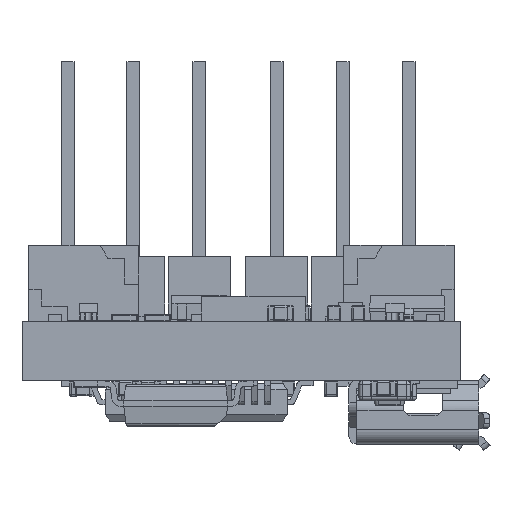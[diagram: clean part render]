
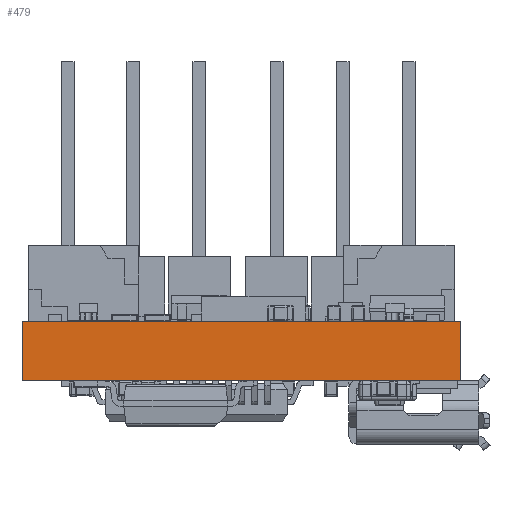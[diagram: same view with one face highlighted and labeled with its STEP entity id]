
A CAD part, left-side view. The second image highlights one B-rep face of the part: STEP entity #479.
In plain terms, the highlighted planar face has unit normal (-1, 0, 0).
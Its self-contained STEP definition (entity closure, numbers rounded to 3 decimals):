
#216 = EDGE_CURVE('',#217,#219,#221,.T.);
#217 = VERTEX_POINT('',#218);
#218 = CARTESIAN_POINT('',(0.,0.,0.));
#219 = VERTEX_POINT('',#220);
#220 = CARTESIAN_POINT('',(0.,0.,2.286));
#221 = SURFACE_CURVE('',#222,(#226,#238),.PCURVE_S1.);
#222 = LINE('',#223,#224);
#223 = CARTESIAN_POINT('',(0.,0.,0.));
#224 = VECTOR('',#225,1.);
#225 = DIRECTION('',(0.,0.,1.));
#226 = PCURVE('',#227,#232);
#227 = PLANE('',#228);
#228 = AXIS2_PLACEMENT_3D('',#229,#230,#231);
#229 = CARTESIAN_POINT('',(0.,0.,0.));
#230 = DIRECTION('',(0.,1.,0.));
#231 = DIRECTION('',(1.,0.,0.));
#232 = DEFINITIONAL_REPRESENTATION('',(#233),#237);
#233 = LINE('',#234,#235);
#234 = CARTESIAN_POINT('',(0.,0.));
#235 = VECTOR('',#236,1.);
#236 = DIRECTION('',(0.,-1.));
#237 = ( GEOMETRIC_REPRESENTATION_CONTEXT(2) 
PARAMETRIC_REPRESENTATION_CONTEXT() REPRESENTATION_CONTEXT('2D SPACE',''
  ) );
#238 = PCURVE('',#239,#244);
#239 = PLANE('',#240);
#240 = AXIS2_PLACEMENT_3D('',#241,#242,#243);
#241 = CARTESIAN_POINT('',(0.,16.891,0.));
#242 = DIRECTION('',(1.,0.,0.));
#243 = DIRECTION('',(0.,-1.,0.));
#244 = DEFINITIONAL_REPRESENTATION('',(#245),#249);
#245 = LINE('',#246,#247);
#246 = CARTESIAN_POINT('',(16.891,0.));
#247 = VECTOR('',#248,1.);
#248 = DIRECTION('',(0.,-1.));
#249 = ( GEOMETRIC_REPRESENTATION_CONTEXT(2) 
PARAMETRIC_REPRESENTATION_CONTEXT() REPRESENTATION_CONTEXT('2D SPACE',''
  ) );
#267 = PLANE('',#268);
#268 = AXIS2_PLACEMENT_3D('',#269,#270,#271);
#269 = CARTESIAN_POINT('',(0.,0.,2.286));
#270 = DIRECTION('',(0.,0.,-1.));
#271 = DIRECTION('',(-1.,0.,0.));
#321 = PLANE('',#322);
#322 = AXIS2_PLACEMENT_3D('',#323,#324,#325);
#323 = CARTESIAN_POINT('',(0.,0.,0.));
#324 = DIRECTION('',(0.,0.,-1.));
#325 = DIRECTION('',(-1.,0.,0.));
#376 = PLANE('',#377);
#377 = AXIS2_PLACEMENT_3D('',#378,#379,#380);
#378 = CARTESIAN_POINT('',(30.,16.891,0.));
#379 = DIRECTION('',(0.,-1.,0.));
#380 = DIRECTION('',(-1.,0.,0.));
#414 = VERTEX_POINT('',#415);
#415 = CARTESIAN_POINT('',(0.,16.891,2.286));
#436 = EDGE_CURVE('',#437,#414,#439,.T.);
#437 = VERTEX_POINT('',#438);
#438 = CARTESIAN_POINT('',(0.,16.891,0.));
#439 = SURFACE_CURVE('',#440,(#444,#451),.PCURVE_S1.);
#440 = LINE('',#441,#442);
#441 = CARTESIAN_POINT('',(0.,16.891,0.));
#442 = VECTOR('',#443,1.);
#443 = DIRECTION('',(0.,0.,1.));
#444 = PCURVE('',#376,#445);
#445 = DEFINITIONAL_REPRESENTATION('',(#446),#450);
#446 = LINE('',#447,#448);
#447 = CARTESIAN_POINT('',(30.,0.));
#448 = VECTOR('',#449,1.);
#449 = DIRECTION('',(0.,-1.));
#450 = ( GEOMETRIC_REPRESENTATION_CONTEXT(2) 
PARAMETRIC_REPRESENTATION_CONTEXT() REPRESENTATION_CONTEXT('2D SPACE',''
  ) );
#451 = PCURVE('',#239,#452);
#452 = DEFINITIONAL_REPRESENTATION('',(#453),#457);
#453 = LINE('',#454,#455);
#454 = CARTESIAN_POINT('',(0.,0.));
#455 = VECTOR('',#456,1.);
#456 = DIRECTION('',(0.,-1.));
#457 = ( GEOMETRIC_REPRESENTATION_CONTEXT(2) 
PARAMETRIC_REPRESENTATION_CONTEXT() REPRESENTATION_CONTEXT('2D SPACE',''
  ) );
#479 = ADVANCED_FACE('',(#480),#239,.F.);
#480 = FACE_BOUND('',#481,.F.);
#481 = EDGE_LOOP('',(#482,#483,#504,#505));
#482 = ORIENTED_EDGE('',*,*,#436,.T.);
#483 = ORIENTED_EDGE('',*,*,#484,.T.);
#484 = EDGE_CURVE('',#414,#219,#485,.T.);
#485 = SURFACE_CURVE('',#486,(#490,#497),.PCURVE_S1.);
#486 = LINE('',#487,#488);
#487 = CARTESIAN_POINT('',(0.,16.891,2.286));
#488 = VECTOR('',#489,1.);
#489 = DIRECTION('',(0.,-1.,0.));
#490 = PCURVE('',#239,#491);
#491 = DEFINITIONAL_REPRESENTATION('',(#492),#496);
#492 = LINE('',#493,#494);
#493 = CARTESIAN_POINT('',(0.,-2.286));
#494 = VECTOR('',#495,1.);
#495 = DIRECTION('',(1.,0.));
#496 = ( GEOMETRIC_REPRESENTATION_CONTEXT(2) 
PARAMETRIC_REPRESENTATION_CONTEXT() REPRESENTATION_CONTEXT('2D SPACE',''
  ) );
#497 = PCURVE('',#267,#498);
#498 = DEFINITIONAL_REPRESENTATION('',(#499),#503);
#499 = LINE('',#500,#501);
#500 = CARTESIAN_POINT('',(0.,16.891));
#501 = VECTOR('',#502,1.);
#502 = DIRECTION('',(0.,-1.));
#503 = ( GEOMETRIC_REPRESENTATION_CONTEXT(2) 
PARAMETRIC_REPRESENTATION_CONTEXT() REPRESENTATION_CONTEXT('2D SPACE',''
  ) );
#504 = ORIENTED_EDGE('',*,*,#216,.F.);
#505 = ORIENTED_EDGE('',*,*,#506,.F.);
#506 = EDGE_CURVE('',#437,#217,#507,.T.);
#507 = SURFACE_CURVE('',#508,(#512,#519),.PCURVE_S1.);
#508 = LINE('',#509,#510);
#509 = CARTESIAN_POINT('',(0.,16.891,0.));
#510 = VECTOR('',#511,1.);
#511 = DIRECTION('',(0.,-1.,0.));
#512 = PCURVE('',#239,#513);
#513 = DEFINITIONAL_REPRESENTATION('',(#514),#518);
#514 = LINE('',#515,#516);
#515 = CARTESIAN_POINT('',(0.,0.));
#516 = VECTOR('',#517,1.);
#517 = DIRECTION('',(1.,0.));
#518 = ( GEOMETRIC_REPRESENTATION_CONTEXT(2) 
PARAMETRIC_REPRESENTATION_CONTEXT() REPRESENTATION_CONTEXT('2D SPACE',''
  ) );
#519 = PCURVE('',#321,#520);
#520 = DEFINITIONAL_REPRESENTATION('',(#521),#525);
#521 = LINE('',#522,#523);
#522 = CARTESIAN_POINT('',(0.,16.891));
#523 = VECTOR('',#524,1.);
#524 = DIRECTION('',(0.,-1.));
#525 = ( GEOMETRIC_REPRESENTATION_CONTEXT(2) 
PARAMETRIC_REPRESENTATION_CONTEXT() REPRESENTATION_CONTEXT('2D SPACE',''
  ) );
